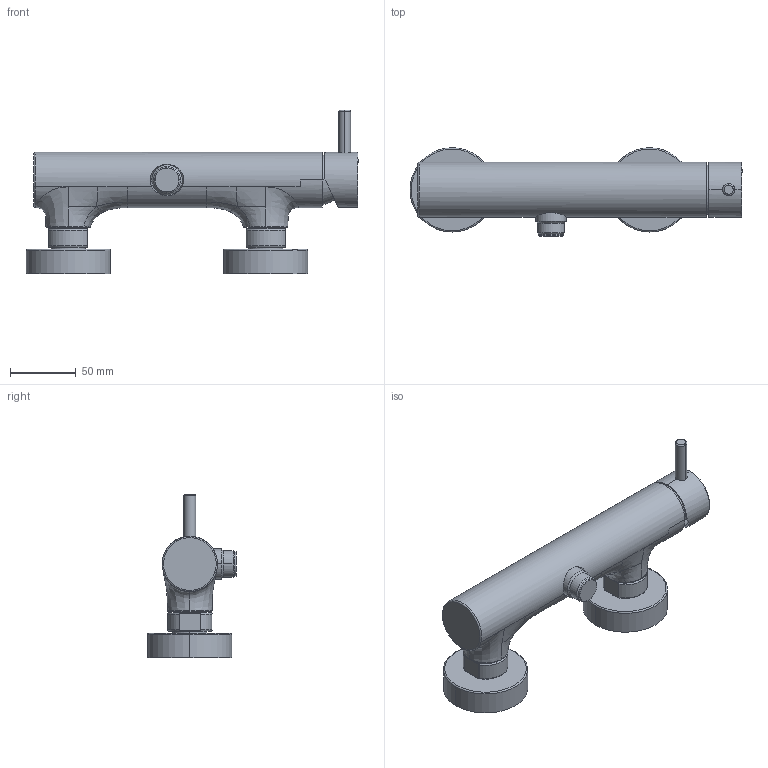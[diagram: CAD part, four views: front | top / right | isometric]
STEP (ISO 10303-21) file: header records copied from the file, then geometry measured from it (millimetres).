
FILE_DESCRIPTION((''),'2;1');
FILE_NAME('12006_SW0001','2021-02-24T10:44:33',('carloff'),(''),'CREO PARAMETRIC BY PTC INC, 2018100','CREO PARAMETRIC BY PTC INC, 2018100','');
FILE_SCHEMA(('CONFIG_CONTROL_DESIGN'));
Length unit declared in the file: millimetre
Products named in the file (1): 12006_SW0001
Bounding box: 252 x 67.3 x 124.1 mm (x, y, z)
Volume: 424923.8 mm3; surface area: 97530.8 mm2
Topology: 1 solids, 14 shells, 516 faces, 1192 edges, 714 vertices
Faces by surface type: cylinder 164, plane 143, bspline 116, cone 53, torus 40
Entity records: 24812 total; most frequent: CARTESIAN_POINT 13764, ORIENTED_EDGE 2376, DIRECTION 2172, EDGE_CURVE 1188, AXIS2_PLACEMENT_3D 863, VERTEX_POINT 715, EDGE_LOOP 545, FACE_OUTER_BOUND 515
